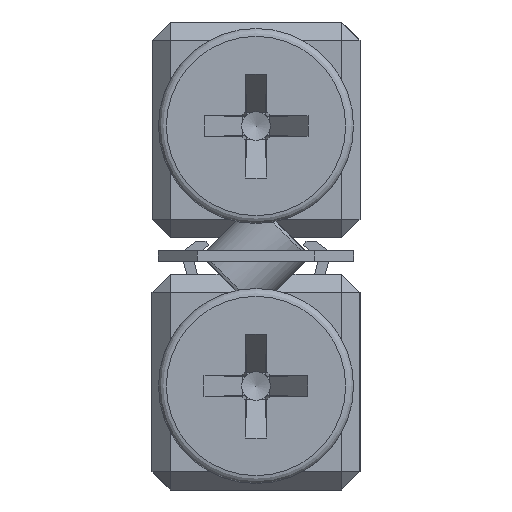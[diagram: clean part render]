
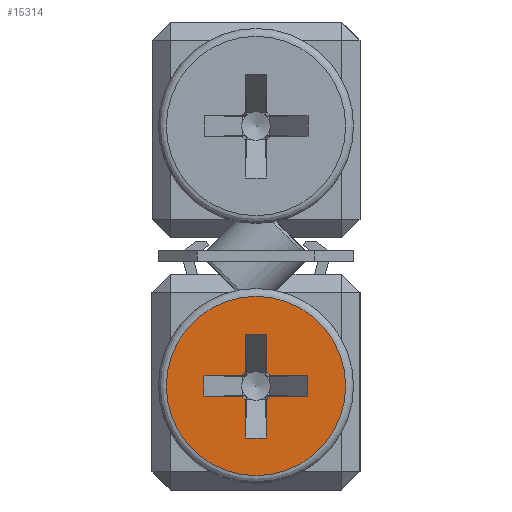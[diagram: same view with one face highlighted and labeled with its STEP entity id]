
A CAD part, left-side view. The second image highlights one B-rep face of the part: STEP entity #15314.
In plain terms, the highlighted planar face has unit normal (-1, 0, 0).
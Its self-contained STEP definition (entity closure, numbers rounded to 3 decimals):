
#100 = ORIENTED_EDGE ( 'NONE', *, *, #19087, .T. ) ;
#740 = CARTESIAN_POINT ( 'NONE',  ( -139.5, -2., 3.6 ) ) ;
#1031 = EDGE_LOOP ( 'NONE', ( #6732, #4203, #27259, #20930, #26612, #17426, #3747, #29237, #13806, #24710, #21585, #15855, #3872, #12522, #17618, #100 ) ) ;
#1464 = DIRECTION ( 'NONE',  ( 1., 0., 0. ) ) ;
#1660 = DIRECTION ( 'NONE',  ( 0., 1., 0. ) ) ;
#2011 = VERTEX_POINT ( 'NONE', #14591 ) ;
#2405 = CARTESIAN_POINT ( 'NONE',  ( -139.5, 0.4, 2. ) ) ;
#2572 = CARTESIAN_POINT ( 'NONE',  ( -139.5, -2., 4.4 ) ) ;
#2601 = VECTOR ( 'NONE', #17716, 1000. ) ;
#2765 = VERTEX_POINT ( 'NONE', #10424 ) ;
#2970 = CARTESIAN_POINT ( 'NONE',  ( -139.5, -0.4, 6. ) ) ;
#3451 = LINE ( 'NONE', #5386, #25038 ) ;
#3559 = DIRECTION ( 'NONE',  ( 0., 0., -1. ) ) ;
#3747 = ORIENTED_EDGE ( 'NONE', *, *, #29571, .F. ) ;
#3872 = ORIENTED_EDGE ( 'NONE', *, *, #8713, .F. ) ;
#3912 = EDGE_CURVE ( 'NONE', #14405, #2011, #17845, .T. ) ;
#4049 = AXIS2_PLACEMENT_3D ( 'NONE', #8178, #11365, #28394 ) ;
#4203 = ORIENTED_EDGE ( 'NONE', *, *, #4261, .T. ) ;
#4211 = DIRECTION ( 'NONE',  ( 0., 0., -1. ) ) ;
#4261 = EDGE_CURVE ( 'NONE', #14405, #14250, #27563, .T. ) ;
#4316 = VECTOR ( 'NONE', #3559, 1000. ) ;
#4386 = CARTESIAN_POINT ( 'NONE',  ( -139.5, 2., 4.4 ) ) ;
#4516 = EDGE_CURVE ( 'NONE', #30041, #19738, #3451, .T. ) ;
#5143 = VERTEX_POINT ( 'NONE', #18722 ) ;
#5369 = VERTEX_POINT ( 'NONE', #6215 ) ;
#5386 = CARTESIAN_POINT ( 'NONE',  ( -139.5, -2., 3.6 ) ) ;
#5494 = EDGE_CURVE ( 'NONE', #22250, #27755, #21412, .T. ) ;
#5735 = CIRCLE ( 'NONE', #30328, 3.45 ) ;
#6166 = CARTESIAN_POINT ( 'NONE',  ( -139.5, -0.548, 4.4 ) ) ;
#6210 = DIRECTION ( 'NONE',  ( 0., 0., -1. ) ) ;
#6215 = CARTESIAN_POINT ( 'NONE',  ( -139.5, 0.4, 4.548 ) ) ;
#6597 = FACE_OUTER_BOUND ( 'NONE', #15173, .T. ) ;
#6732 = ORIENTED_EDGE ( 'NONE', *, *, #3912, .F. ) ;
#6757 = DIRECTION ( 'NONE',  ( -1., 0., 0. ) ) ;
#6789 = DIRECTION ( 'NONE',  ( 0., 0., -1. ) ) ;
#6842 = EDGE_CURVE ( 'NONE', #5369, #13565, #12803, .T. ) ;
#6964 = CARTESIAN_POINT ( 'NONE',  ( -139.5, 0., 0.55 ) ) ;
#7115 = LINE ( 'NONE', #11604, #30190 ) ;
#7353 = EDGE_CURVE ( 'NONE', #5143, #25986, #20270, .T. ) ;
#7699 = LINE ( 'NONE', #25179, #23807 ) ;
#8178 = CARTESIAN_POINT ( 'NONE',  ( -139.5, 0., 4. ) ) ;
#8657 = CARTESIAN_POINT ( 'NONE',  ( -139.5, 2., 3.6 ) ) ;
#8713 = EDGE_CURVE ( 'NONE', #22250, #31194, #15424, .T. ) ;
#8973 = CARTESIAN_POINT ( 'NONE',  ( -139.5, 0.4, 3.452 ) ) ;
#9240 = DIRECTION ( 'NONE',  ( 0., -1., 0. ) ) ;
#9328 = DIRECTION ( 'NONE',  ( 0., 0., 1. ) ) ;
#10094 = EDGE_CURVE ( 'NONE', #16682, #27755, #17867, .T. ) ;
#10424 = CARTESIAN_POINT ( 'NONE',  ( -139.5, 0.4, 2. ) ) ;
#10509 = DIRECTION ( 'NONE',  ( 0., 1., 0. ) ) ;
#10666 = CARTESIAN_POINT ( 'NONE',  ( -139.5, -2., 3.6 ) ) ;
#10812 = DIRECTION ( 'NONE',  ( 0., 1., 0. ) ) ;
#10932 = EDGE_CURVE ( 'NONE', #29218, #13565, #18847, .T. ) ;
#11344 = AXIS2_PLACEMENT_3D ( 'NONE', #17386, #12433, #14677 ) ;
#11346 = AXIS2_PLACEMENT_3D ( 'NONE', #26172, #1464, #4211 ) ;
#11365 = DIRECTION ( 'NONE',  ( -1., 0., 0. ) ) ;
#11604 = CARTESIAN_POINT ( 'NONE',  ( -139.5, -2., 3.6 ) ) ;
#12173 = LINE ( 'NONE', #22135, #24717 ) ;
#12433 = DIRECTION ( 'NONE',  ( -1., 0., 0. ) ) ;
#12522 = ORIENTED_EDGE ( 'NONE', *, *, #5494, .T. ) ;
#12624 = CARTESIAN_POINT ( 'NONE',  ( -139.5, 0.548, 4.4 ) ) ;
#12803 = CIRCLE ( 'NONE', #28689, 0.678 ) ;
#12945 = CARTESIAN_POINT ( 'NONE',  ( -139.5, -0.4, 6. ) ) ;
#13303 = AXIS2_PLACEMENT_3D ( 'NONE', #30856, #14132, #9328 ) ;
#13565 = VERTEX_POINT ( 'NONE', #12624 ) ;
#13806 = ORIENTED_EDGE ( 'NONE', *, *, #6842, .F. ) ;
#13917 = CARTESIAN_POINT ( 'NONE',  ( -139.5, 0.548, 3.6 ) ) ;
#14001 = VERTEX_POINT ( 'NONE', #6964 ) ;
#14132 = DIRECTION ( 'NONE',  ( -1., 0., 0. ) ) ;
#14250 = VERTEX_POINT ( 'NONE', #15110 ) ;
#14405 = VERTEX_POINT ( 'NONE', #24673 ) ;
#14591 = CARTESIAN_POINT ( 'NONE',  ( -139.5, -0.548, 3.6 ) ) ;
#14677 = DIRECTION ( 'NONE',  ( 0., 0., 1. ) ) ;
#15110 = CARTESIAN_POINT ( 'NONE',  ( -139.5, -0.4, 2. ) ) ;
#15116 = VECTOR ( 'NONE', #9240, 1000. ) ;
#15173 = EDGE_LOOP ( 'NONE', ( #28302 ) ) ;
#15314 = ADVANCED_FACE ( 'NONE', ( #6597, #23438 ), #26342, .F. ) ;
#15327 = CIRCLE ( 'NONE', #13303, 0.678 ) ;
#15424 = CIRCLE ( 'NONE', #11344, 0.678 ) ;
#15855 = ORIENTED_EDGE ( 'NONE', *, *, #26094, .T. ) ;
#16124 = CARTESIAN_POINT ( 'NONE',  ( -139.5, 2., 4.4 ) ) ;
#16682 = VERTEX_POINT ( 'NONE', #10666 ) ;
#16919 = EDGE_CURVE ( 'NONE', #2765, #14250, #29115, .T. ) ;
#17048 = CARTESIAN_POINT ( 'NONE',  ( -139.5, 0.4, 2. ) ) ;
#17291 = LINE ( 'NONE', #2405, #19131 ) ;
#17386 = CARTESIAN_POINT ( 'NONE',  ( -139.5, 0., 4. ) ) ;
#17426 = ORIENTED_EDGE ( 'NONE', *, *, #4516, .T. ) ;
#17618 = ORIENTED_EDGE ( 'NONE', *, *, #10094, .F. ) ;
#17716 = DIRECTION ( 'NONE',  ( 0., 0., 1. ) ) ;
#17845 = CIRCLE ( 'NONE', #4049, 0.678 ) ;
#17867 = LINE ( 'NONE', #740, #2601 ) ;
#18172 = CARTESIAN_POINT ( 'NONE',  ( -139.5, 0.4, 6. ) ) ;
#18282 = CARTESIAN_POINT ( 'NONE',  ( -139.5, 2., 4.4 ) ) ;
#18722 = CARTESIAN_POINT ( 'NONE',  ( -139.5, -0.4, 6. ) ) ;
#18847 = LINE ( 'NONE', #19180, #20443 ) ;
#19087 = EDGE_CURVE ( 'NONE', #16682, #2011, #7115, .T. ) ;
#19131 = VECTOR ( 'NONE', #29683, 1000. ) ;
#19180 = CARTESIAN_POINT ( 'NONE',  ( -139.5, 2., 4.4 ) ) ;
#19289 = VECTOR ( 'NONE', #6210, 1000. ) ;
#19715 = DIRECTION ( 'NONE',  ( 0., 0., 1. ) ) ;
#19738 = VERTEX_POINT ( 'NONE', #8657 ) ;
#20270 = LINE ( 'NONE', #2970, #27155 ) ;
#20339 = EDGE_CURVE ( 'NONE', #30041, #22932, #15327, .T. ) ;
#20443 = VECTOR ( 'NONE', #21759, 1000. ) ;
#20544 = LINE ( 'NONE', #18282, #4316 ) ;
#20714 = DIRECTION ( 'NONE',  ( 0., 0., -1. ) ) ;
#20930 = ORIENTED_EDGE ( 'NONE', *, *, #26055, .T. ) ;
#21180 = CARTESIAN_POINT ( 'NONE',  ( -139.5, 0., 4. ) ) ;
#21412 = LINE ( 'NONE', #16124, #15116 ) ;
#21475 = DIRECTION ( 'NONE',  ( 0., 0., 1. ) ) ;
#21585 = ORIENTED_EDGE ( 'NONE', *, *, #7353, .F. ) ;
#21759 = DIRECTION ( 'NONE',  ( 0., -1., 0. ) ) ;
#21806 = DIRECTION ( 'NONE',  ( -1., 0., 0. ) ) ;
#22135 = CARTESIAN_POINT ( 'NONE',  ( -139.5, -0.4, 6. ) ) ;
#22250 = VERTEX_POINT ( 'NONE', #6166 ) ;
#22624 = EDGE_CURVE ( 'NONE', #14001, #14001, #5735, .T. ) ;
#22932 = VERTEX_POINT ( 'NONE', #8973 ) ;
#23438 = FACE_BOUND ( 'NONE', #1031, .T. ) ;
#23710 = CARTESIAN_POINT ( 'NONE',  ( -139.5, -0.4, 4.548 ) ) ;
#23807 = VECTOR ( 'NONE', #19715, 1000. ) ;
#24673 = CARTESIAN_POINT ( 'NONE',  ( -139.5, -0.4, 3.452 ) ) ;
#24710 = ORIENTED_EDGE ( 'NONE', *, *, #30939, .T. ) ;
#24717 = VECTOR ( 'NONE', #6789, 1000. ) ;
#25038 = VECTOR ( 'NONE', #10509, 1000. ) ;
#25179 = CARTESIAN_POINT ( 'NONE',  ( -139.5, 0.4, 2. ) ) ;
#25986 = VERTEX_POINT ( 'NONE', #18172 ) ;
#26055 = EDGE_CURVE ( 'NONE', #2765, #22932, #17291, .T. ) ;
#26094 = EDGE_CURVE ( 'NONE', #5143, #31194, #12173, .T. ) ;
#26172 = CARTESIAN_POINT ( 'NONE',  ( -139.5, 3.75, 4. ) ) ;
#26342 = PLANE ( 'NONE',  #11346 ) ;
#26612 = ORIENTED_EDGE ( 'NONE', *, *, #20339, .F. ) ;
#27155 = VECTOR ( 'NONE', #10812, 1000. ) ;
#27259 = ORIENTED_EDGE ( 'NONE', *, *, #16919, .F. ) ;
#27563 = LINE ( 'NONE', #12945, #19289 ) ;
#27755 = VERTEX_POINT ( 'NONE', #2572 ) ;
#28302 = ORIENTED_EDGE ( 'NONE', *, *, #22624, .T. ) ;
#28394 = DIRECTION ( 'NONE',  ( 0., 0., 1. ) ) ;
#28689 = AXIS2_PLACEMENT_3D ( 'NONE', #30999, #21806, #21475 ) ;
#28971 = DIRECTION ( 'NONE',  ( 0., -1., 0. ) ) ;
#29115 = LINE ( 'NONE', #17048, #30877 ) ;
#29218 = VERTEX_POINT ( 'NONE', #4386 ) ;
#29237 = ORIENTED_EDGE ( 'NONE', *, *, #10932, .T. ) ;
#29571 = EDGE_CURVE ( 'NONE', #29218, #19738, #20544, .T. ) ;
#29683 = DIRECTION ( 'NONE',  ( 0., 0., 1. ) ) ;
#30041 = VERTEX_POINT ( 'NONE', #13917 ) ;
#30190 = VECTOR ( 'NONE', #1660, 1000. ) ;
#30328 = AXIS2_PLACEMENT_3D ( 'NONE', #21180, #6757, #20714 ) ;
#30856 = CARTESIAN_POINT ( 'NONE',  ( -139.5, 0., 4. ) ) ;
#30877 = VECTOR ( 'NONE', #28971, 1000. ) ;
#30939 = EDGE_CURVE ( 'NONE', #5369, #25986, #7699, .T. ) ;
#30999 = CARTESIAN_POINT ( 'NONE',  ( -139.5, 0., 4. ) ) ;
#31194 = VERTEX_POINT ( 'NONE', #23710 ) ;
